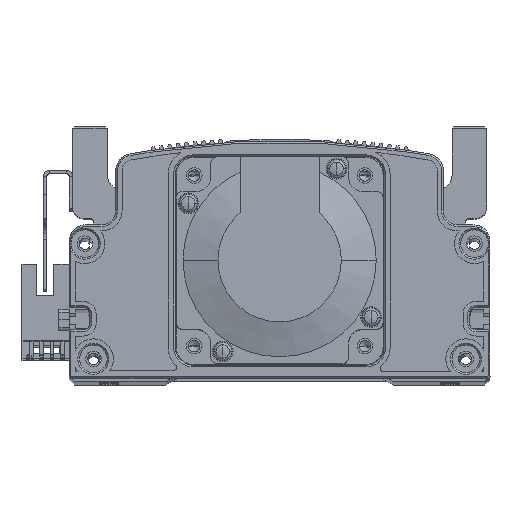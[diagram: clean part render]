
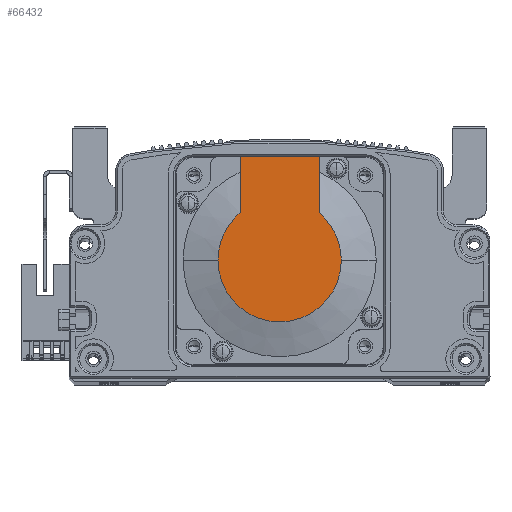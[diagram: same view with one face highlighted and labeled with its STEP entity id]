
A CAD part, top view. The second image highlights one B-rep face of the part: STEP entity #66432.
In plain terms, the highlighted planar face has unit normal (0, 0, 1) as drawn and (-1, 0, 0) by its records, which use the part's own axes.
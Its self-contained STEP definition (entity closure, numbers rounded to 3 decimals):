
#1232 = VERTEX_POINT ( 'NONE', #54287 ) ;
#1473 = DIRECTION ( 'NONE',  ( 0., 0., -1. ) ) ;
#1709 = CARTESIAN_POINT ( 'NONE',  ( -118.5, 0., 11.45 ) ) ;
#2388 = DIRECTION ( 'NONE',  ( 0., 0., -1. ) ) ;
#4450 = ORIENTED_EDGE ( 'NONE', *, *, #22529, .F. ) ;
#6231 = EDGE_CURVE ( 'NONE', #56734, #38664, #41570, .T. ) ;
#9762 = ORIENTED_EDGE ( 'NONE', *, *, #48310, .T. ) ;
#15139 = LINE ( 'NONE', #57895, #64775 ) ;
#16332 = FACE_OUTER_BOUND ( 'NONE', #31133, .T. ) ;
#17373 = CARTESIAN_POINT ( 'NONE',  ( -118.5, 13.735, -11.45 ) ) ;
#21270 = ORIENTED_EDGE ( 'NONE', *, *, #6231, .T. ) ;
#21762 = EDGE_CURVE ( 'NONE', #1232, #33832, #64006, .T. ) ;
#22529 = EDGE_CURVE ( 'NONE', #39439, #1232, #29925, .T. ) ;
#22905 = ORIENTED_EDGE ( 'NONE', *, *, #25858, .T. ) ;
#23218 = DIRECTION ( 'NONE',  ( 0., 0., -1. ) ) ;
#23726 = CARTESIAN_POINT ( 'NONE',  ( -118.5, 0., 17.881 ) ) ;
#25508 = CARTESIAN_POINT ( 'NONE',  ( -118.5, 13.735, 11.45 ) ) ;
#25858 = EDGE_CURVE ( 'NONE', #38664, #48358, #31466, .T. ) ;
#27575 = DIRECTION ( 'NONE',  ( -1., 0., 0. ) ) ;
#27773 = DIRECTION ( 'NONE',  ( 0., 0., 1. ) ) ;
#28988 = AXIS2_PLACEMENT_3D ( 'NONE', #65354, #65577, #1473 ) ;
#29720 = CARTESIAN_POINT ( 'NONE',  ( -118.5, 0., 0. ) ) ;
#29925 = LINE ( 'NONE', #59211, #44008 ) ;
#31133 = EDGE_LOOP ( 'NONE', ( #36264, #21270, #22905, #9762, #34192, #4450 ) ) ;
#31466 = CIRCLE ( 'NONE', #57387, 17.881 ) ;
#33832 = VERTEX_POINT ( 'NONE', #25508 ) ;
#34192 = ORIENTED_EDGE ( 'NONE', *, *, #21762, .F. ) ;
#35593 = AXIS2_PLACEMENT_3D ( 'NONE', #64599, #27575, #49061 ) ;
#36264 = ORIENTED_EDGE ( 'NONE', *, *, #39160, .T. ) ;
#38664 = VERTEX_POINT ( 'NONE', #57967 ) ;
#38932 = CARTESIAN_POINT ( 'NONE',  ( -118.5, 0., 0. ) ) ;
#39160 = EDGE_CURVE ( 'NONE', #39439, #56734, #15139, .T. ) ;
#39387 = DIRECTION ( 'NONE',  ( -1., 0., 0. ) ) ;
#39439 = VERTEX_POINT ( 'NONE', #59263 ) ;
#39651 = DIRECTION ( 'NONE',  ( -1., 0., 0. ) ) ;
#39931 = VECTOR ( 'NONE', #44068, 1000. ) ;
#41570 = CIRCLE ( 'NONE', #28988, 17.881 ) ;
#42919 = CIRCLE ( 'NONE', #62231, 17.881 ) ;
#44008 = VECTOR ( 'NONE', #27773, 1000. ) ;
#44068 = DIRECTION ( 'NONE',  ( 0., -1., 0. ) ) ;
#48310 = EDGE_CURVE ( 'NONE', #48358, #33832, #42919, .T. ) ;
#48358 = VERTEX_POINT ( 'NONE', #23726 ) ;
#49061 = DIRECTION ( 'NONE',  ( 0., 0., 1. ) ) ;
#52804 = PLANE ( 'NONE',  #35593 ) ;
#54287 = CARTESIAN_POINT ( 'NONE',  ( -118.5, 30., 11.45 ) ) ;
#56734 = VERTEX_POINT ( 'NONE', #17373 ) ;
#57387 = AXIS2_PLACEMENT_3D ( 'NONE', #38932, #39387, #23218 ) ;
#57895 = CARTESIAN_POINT ( 'NONE',  ( -118.5, -8.941, -11.45 ) ) ;
#57967 = CARTESIAN_POINT ( 'NONE',  ( -118.5, 0., -17.881 ) ) ;
#59211 = CARTESIAN_POINT ( 'NONE',  ( -118.5, 30., 25. ) ) ;
#59263 = CARTESIAN_POINT ( 'NONE',  ( -118.5, 30., -11.45 ) ) ;
#62231 = AXIS2_PLACEMENT_3D ( 'NONE', #29720, #39651, #2388 ) ;
#64006 = LINE ( 'NONE', #1709, #39931 ) ;
#64599 = CARTESIAN_POINT ( 'NONE',  ( -118.5, -8.941, 0. ) ) ;
#64775 = VECTOR ( 'NONE', #67436, 1000. ) ;
#65354 = CARTESIAN_POINT ( 'NONE',  ( -118.5, 0., 0. ) ) ;
#65577 = DIRECTION ( 'NONE',  ( -1., 0., 0. ) ) ;
#66432 = ADVANCED_FACE ( 'NONE', ( #16332 ), #52804, .T. ) ;
#67436 = DIRECTION ( 'NONE',  ( 0., -1., 0. ) ) ;
